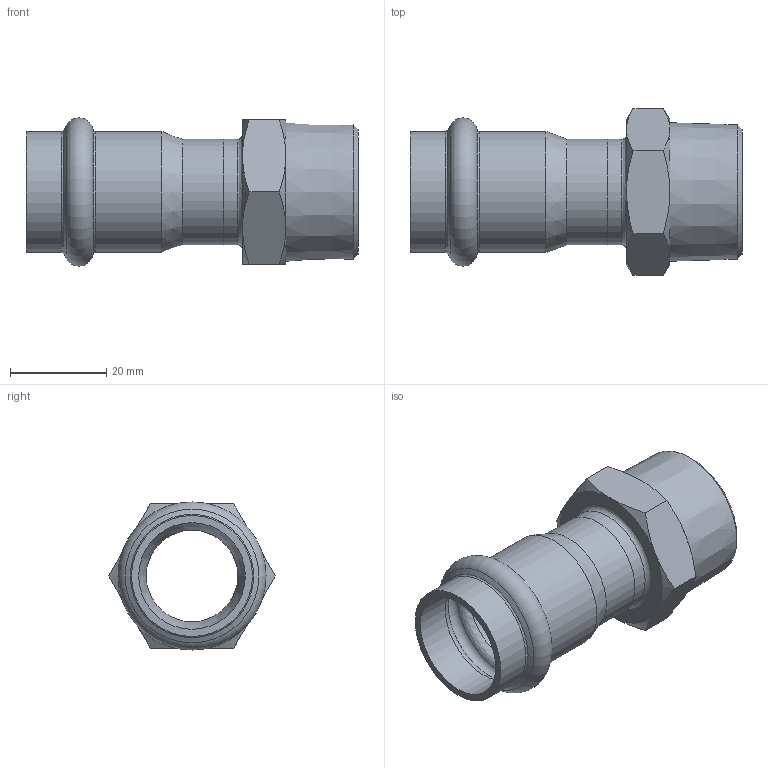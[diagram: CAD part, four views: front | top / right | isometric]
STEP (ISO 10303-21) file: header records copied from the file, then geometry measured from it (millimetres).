
FILE_DESCRIPTION((''),'2;1');
FILE_NAME('G:\Nirosan-Schmiedefeld\Technics\CAD\001 Serie 9.000\022\69243G2234H(2).stp','2018-08-28T08:55:26',('herberg'),(''),'Autodesk Inventor 2009','Autodesk Inventor 2009','');
FILE_SCHEMA(('AUTOMOTIVE_DESIGN { 1 0 10303 214 1 1 1 1 }'));
Length unit declared in the file: millimetre
Products named in the file (3): 69243G2234H(2); 69HM22P(1); 69ATAG22R34P(0)
Assembly tree (2 placements, depth 2):
  69243G2234H(2)
    69HM22P(1)
    69ATAG22R34P(0)
Bounding box: 69 x 34.64 x 30.8 mm (x, y, z)
Volume: 13418.5 mm3; surface area: 11825.1 mm2
Topology: 2 solids, 2 shells, 47 faces, 97 edges, 56 vertices
Faces by surface type: cone 18, plane 12, bspline 8, cylinder 7, torus 2
Full cylindrical faces by diameter (mm): 19 x1, 22 x2, 22.15 x2, 25.15 x2
Entity records: 1379 total; most frequent: CARTESIAN_POINT 493, DIRECTION 174, ORIENTED_EDGE 140, AXIS2_PLACEMENT_3D 84, EDGE_LOOP 76, EDGE_CURVE 70, VERTEX_POINT 52, FACE_OUTER_BOUND 47
